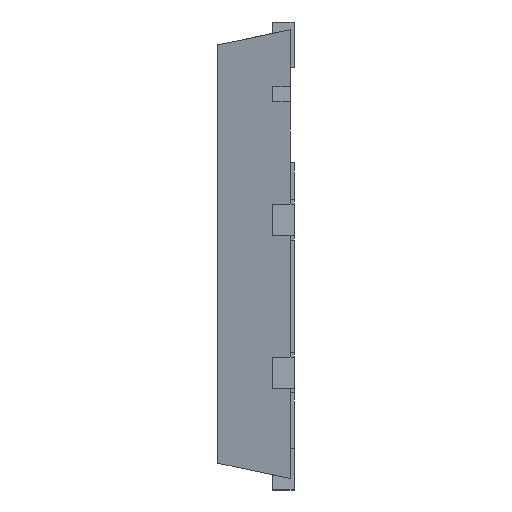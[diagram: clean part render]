
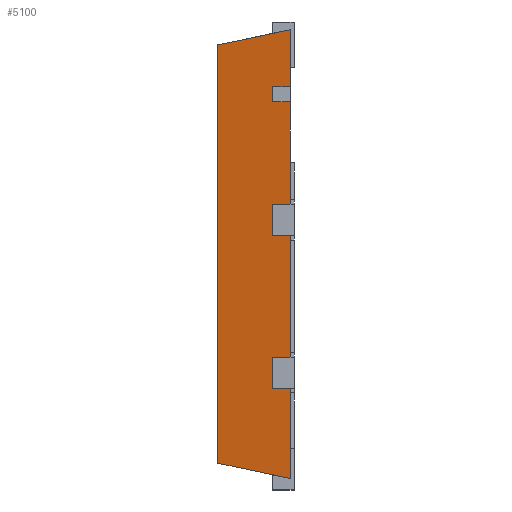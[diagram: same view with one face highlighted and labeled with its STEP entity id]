
A CAD part, left-side view. The second image highlights one B-rep face of the part: STEP entity #5100.
In plain terms, the highlighted planar face has unit normal (-0.978, 0.208, 0).
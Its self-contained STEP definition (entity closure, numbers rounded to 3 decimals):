
#13 = LINE ( 'NONE', #3268, #448 ) ;
#14 = DIRECTION ( 'NONE',  ( 0., 0., 1. ) ) ;
#89 = VECTOR ( 'NONE', #1793, 1000. ) ;
#98 = EDGE_CURVE ( 'NONE', #3123, #3448, #6296, .T. ) ;
#112 = ORIENTED_EDGE ( 'NONE', *, *, #1604, .T. ) ;
#166 = ORIENTED_EDGE ( 'NONE', *, *, #1424, .T. ) ;
#220 = VECTOR ( 'NONE', #14, 1000. ) ;
#263 = EDGE_LOOP ( 'NONE', ( #6266, #166, #5441, #380, #2022, #5193, #4574, #676, #1466, #1396, #2687, #112, #3119, #4400, #4946, #506 ) ) ;
#307 = DIRECTION ( 'NONE',  ( 0., 0., 1. ) ) ;
#309 = VECTOR ( 'NONE', #3614, 1000. ) ;
#324 = DIRECTION ( 'NONE',  ( -0.978, 0.208, 0. ) ) ;
#340 = EDGE_CURVE ( 'NONE', #1049, #2096, #4995, .T. ) ;
#380 = ORIENTED_EDGE ( 'NONE', *, *, #3528, .F. ) ;
#420 = VECTOR ( 'NONE', #2048, 1000. ) ;
#447 = EDGE_CURVE ( 'NONE', #488, #7104, #4268, .T. ) ;
#448 = VECTOR ( 'NONE', #4087, 1000. ) ;
#488 = VERTEX_POINT ( 'NONE', #4986 ) ;
#506 = ORIENTED_EDGE ( 'NONE', *, *, #98, .T. ) ;
#535 = VERTEX_POINT ( 'NONE', #6072 ) ;
#676 = ORIENTED_EDGE ( 'NONE', *, *, #1087, .T. ) ;
#678 = CARTESIAN_POINT ( 'NONE',  ( -2.5, 0., 0.245 ) ) ;
#706 = VERTEX_POINT ( 'NONE', #3668 ) ;
#852 = LINE ( 'NONE', #3067, #5740 ) ;
#927 = LINE ( 'NONE', #7097, #1013 ) ;
#928 = VECTOR ( 'NONE', #4637, 1000. ) ;
#970 = EDGE_CURVE ( 'NONE', #3448, #6577, #2962, .T. ) ;
#976 = CARTESIAN_POINT ( 'NONE',  ( -2.5, 0., -2.95 ) ) ;
#991 = EDGE_CURVE ( 'NONE', #5807, #2519, #5731, .T. ) ;
#1013 = VECTOR ( 'NONE', #5942, 1000. ) ;
#1049 = VERTEX_POINT ( 'NONE', #1446 ) ;
#1087 = EDGE_CURVE ( 'NONE', #3343, #4897, #927, .T. ) ;
#1396 = ORIENTED_EDGE ( 'NONE', *, *, #5693, .T. ) ;
#1410 = CARTESIAN_POINT ( 'NONE',  ( -2.5, 0., 2. ) ) ;
#1414 = LINE ( 'NONE', #1632, #420 ) ;
#1419 = DIRECTION ( 'NONE',  ( -0.204, -0.958, 0.204 ) ) ;
#1424 = EDGE_CURVE ( 'NONE', #6577, #3049, #5620, .T. ) ;
#1446 = CARTESIAN_POINT ( 'NONE',  ( -2.298, 0.95, -2.748 ) ) ;
#1466 = ORIENTED_EDGE ( 'NONE', *, *, #6001, .T. ) ;
#1511 = CARTESIAN_POINT ( 'NONE',  ( -2.5, 0., 2. ) ) ;
#1563 = CARTESIAN_POINT ( 'NONE',  ( -2.451, 0.23, -2.95 ) ) ;
#1573 = VECTOR ( 'NONE', #3497, 1000. ) ;
#1604 = EDGE_CURVE ( 'NONE', #2519, #3741, #4066, .T. ) ;
#1606 = CARTESIAN_POINT ( 'NONE',  ( -2.5, 0., -1.765 ) ) ;
#1632 = CARTESIAN_POINT ( 'NONE',  ( -2.5, 0., -2.95 ) ) ;
#1674 = EDGE_CURVE ( 'NONE', #4071, #3343, #1414, .T. ) ;
#1793 = DIRECTION ( 'NONE',  ( -0.208, -0.978, 0. ) ) ;
#2022 = ORIENTED_EDGE ( 'NONE', *, *, #340, .F. ) ;
#2048 = DIRECTION ( 'NONE',  ( 0., 0., 1. ) ) ;
#2063 = CARTESIAN_POINT ( 'NONE',  ( -2.5, 0., -2.95 ) ) ;
#2072 = CARTESIAN_POINT ( 'NONE',  ( -2.5, 0., 0.655 ) ) ;
#2096 = VERTEX_POINT ( 'NONE', #2303 ) ;
#2179 = CARTESIAN_POINT ( 'NONE',  ( -2.5, 0., -1.355 ) ) ;
#2236 = CARTESIAN_POINT ( 'NONE',  ( -2.5, 0., 0.655 ) ) ;
#2240 = CARTESIAN_POINT ( 'NONE',  ( -2.298, 0.95, -2.95 ) ) ;
#2266 = VECTOR ( 'NONE', #307, 1000. ) ;
#2267 = EDGE_CURVE ( 'NONE', #3741, #488, #6521, .T. ) ;
#2303 = CARTESIAN_POINT ( 'NONE',  ( -2.298, 0.95, 2.748 ) ) ;
#2519 = VERTEX_POINT ( 'NONE', #678 ) ;
#2687 = ORIENTED_EDGE ( 'NONE', *, *, #991, .T. ) ;
#2703 = VECTOR ( 'NONE', #3789, 1000. ) ;
#2728 = VECTOR ( 'NONE', #2988, 1000. ) ;
#2962 = LINE ( 'NONE', #4096, #309 ) ;
#2988 = DIRECTION ( 'NONE',  ( -0.208, -0.978, 0. ) ) ;
#3049 = VERTEX_POINT ( 'NONE', #6254 ) ;
#3067 = CARTESIAN_POINT ( 'NONE',  ( -2.5, 0., -2.95 ) ) ;
#3119 = ORIENTED_EDGE ( 'NONE', *, *, #2267, .T. ) ;
#3123 = VERTEX_POINT ( 'NONE', #1511 ) ;
#3143 = DIRECTION ( 'NONE',  ( -0.208, -0.978, 0. ) ) ;
#3268 = CARTESIAN_POINT ( 'NONE',  ( -2.451, 0.23, -2.95 ) ) ;
#3343 = VERTEX_POINT ( 'NONE', #1606 ) ;
#3448 = VERTEX_POINT ( 'NONE', #5641 ) ;
#3490 = CARTESIAN_POINT ( 'NONE',  ( -2.451, 0.23, -1.765 ) ) ;
#3497 = DIRECTION ( 'NONE',  ( 0.208, 0.978, 0. ) ) ;
#3528 = EDGE_CURVE ( 'NONE', #2096, #535, #5233, .T. ) ;
#3552 = PLANE ( 'NONE',  #5498 ) ;
#3588 = CARTESIAN_POINT ( 'NONE',  ( -2.5, 0., 2.95 ) ) ;
#3614 = DIRECTION ( 'NONE',  ( 0., 0., 1. ) ) ;
#3668 = CARTESIAN_POINT ( 'NONE',  ( -2.451, 0.23, -1.355 ) ) ;
#3741 = VERTEX_POINT ( 'NONE', #5842 ) ;
#3789 = DIRECTION ( 'NONE',  ( 0., 0., 1. ) ) ;
#3907 = EDGE_CURVE ( 'NONE', #1049, #4071, #5992, .T. ) ;
#4066 = LINE ( 'NONE', #6265, #1573 ) ;
#4071 = VERTEX_POINT ( 'NONE', #4470 ) ;
#4087 = DIRECTION ( 'NONE',  ( 0., 0., 1. ) ) ;
#4096 = CARTESIAN_POINT ( 'NONE',  ( -2.451, 0.23, -2.95 ) ) ;
#4138 = LINE ( 'NONE', #6334, #2728 ) ;
#4263 = EDGE_CURVE ( 'NONE', #7104, #3123, #852, .T. ) ;
#4268 = LINE ( 'NONE', #2072, #928 ) ;
#4275 = VECTOR ( 'NONE', #6811, 1000. ) ;
#4393 = CARTESIAN_POINT ( 'NONE',  ( -2.5, 0., -2.95 ) ) ;
#4400 = ORIENTED_EDGE ( 'NONE', *, *, #447, .T. ) ;
#4457 = VECTOR ( 'NONE', #6584, 1000. ) ;
#4470 = CARTESIAN_POINT ( 'NONE',  ( -2.5, 0., -2.95 ) ) ;
#4574 = ORIENTED_EDGE ( 'NONE', *, *, #1674, .T. ) ;
#4637 = DIRECTION ( 'NONE',  ( -0.208, -0.978, 0. ) ) ;
#4644 = CARTESIAN_POINT ( 'NONE',  ( -2.5, 0., -2.95 ) ) ;
#4649 = FACE_OUTER_BOUND ( 'NONE', #263, .T. ) ;
#4897 = VERTEX_POINT ( 'NONE', #3490 ) ;
#4946 = ORIENTED_EDGE ( 'NONE', *, *, #4263, .T. ) ;
#4986 = CARTESIAN_POINT ( 'NONE',  ( -2.451, 0.23, 0.655 ) ) ;
#4995 = LINE ( 'NONE', #2240, #220 ) ;
#5026 = CARTESIAN_POINT ( 'NONE',  ( -2.5, 0., 2.2 ) ) ;
#5086 = VECTOR ( 'NONE', #5960, 1000. ) ;
#5100 = ADVANCED_FACE ( 'NONE', ( #4649 ), #3552, .T. ) ;
#5106 = EDGE_CURVE ( 'NONE', #3049, #535, #5436, .T. ) ;
#5193 = ORIENTED_EDGE ( 'NONE', *, *, #3907, .T. ) ;
#5233 = LINE ( 'NONE', #3588, #6692 ) ;
#5311 = DIRECTION ( 'NONE',  ( 0., 0., 1. ) ) ;
#5436 = LINE ( 'NONE', #2063, #2703 ) ;
#5441 = ORIENTED_EDGE ( 'NONE', *, *, #5106, .T. ) ;
#5498 = AXIS2_PLACEMENT_3D ( 'NONE', #976, #324, #3143 ) ;
#5620 = LINE ( 'NONE', #5026, #89 ) ;
#5641 = CARTESIAN_POINT ( 'NONE',  ( -2.451, 0.23, 2. ) ) ;
#5693 = EDGE_CURVE ( 'NONE', #706, #5807, #4138, .T. ) ;
#5731 = LINE ( 'NONE', #4644, #2266 ) ;
#5740 = VECTOR ( 'NONE', #5311, 1000. ) ;
#5807 = VERTEX_POINT ( 'NONE', #2179 ) ;
#5842 = CARTESIAN_POINT ( 'NONE',  ( -2.451, 0.23, 0.245 ) ) ;
#5942 = DIRECTION ( 'NONE',  ( 0.208, 0.978, 0. ) ) ;
#5960 = DIRECTION ( 'NONE',  ( 0., 0., 1. ) ) ;
#5992 = LINE ( 'NONE', #4393, #4457 ) ;
#6001 = EDGE_CURVE ( 'NONE', #4897, #706, #13, .T. ) ;
#6072 = CARTESIAN_POINT ( 'NONE',  ( -2.5, 0., 2.95 ) ) ;
#6254 = CARTESIAN_POINT ( 'NONE',  ( -2.5, 0., 2.2 ) ) ;
#6265 = CARTESIAN_POINT ( 'NONE',  ( -2.5, 0., 0.245 ) ) ;
#6266 = ORIENTED_EDGE ( 'NONE', *, *, #970, .T. ) ;
#6296 = LINE ( 'NONE', #1410, #4275 ) ;
#6334 = CARTESIAN_POINT ( 'NONE',  ( -2.5, 0., -1.355 ) ) ;
#6342 = CARTESIAN_POINT ( 'NONE',  ( -2.451, 0.23, 2.2 ) ) ;
#6521 = LINE ( 'NONE', #1563, #5086 ) ;
#6577 = VERTEX_POINT ( 'NONE', #6342 ) ;
#6584 = DIRECTION ( 'NONE',  ( -0.204, -0.958, -0.204 ) ) ;
#6692 = VECTOR ( 'NONE', #1419, 1000. ) ;
#6811 = DIRECTION ( 'NONE',  ( 0.208, 0.978, 0. ) ) ;
#7097 = CARTESIAN_POINT ( 'NONE',  ( -2.5, 0., -1.765 ) ) ;
#7104 = VERTEX_POINT ( 'NONE', #2236 ) ;
